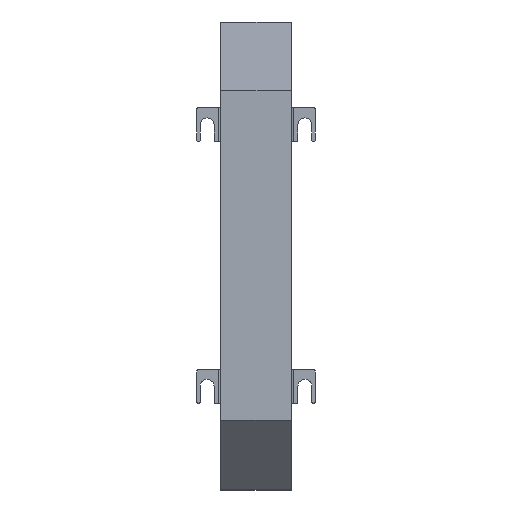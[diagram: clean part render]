
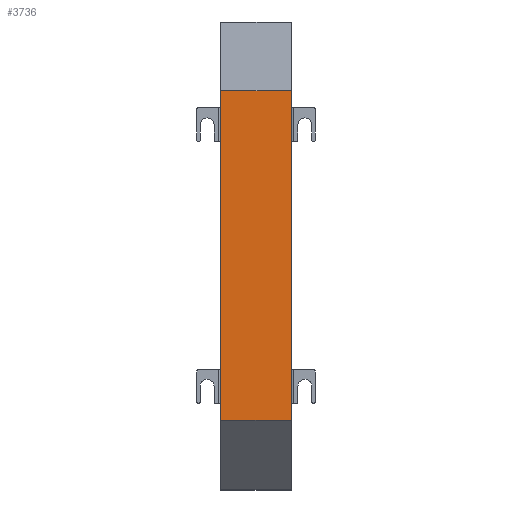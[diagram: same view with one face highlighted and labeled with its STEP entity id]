
A CAD part, top view. The second image highlights one B-rep face of the part: STEP entity #3736.
In plain terms, the highlighted planar face has unit normal (0, 0, 1) as drawn and (0, -1, 0) by its records, which use the part's own axes.
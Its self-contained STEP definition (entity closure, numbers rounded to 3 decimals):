
#226 = CARTESIAN_POINT ( 'NONE',  ( 0., 0., 16.5 ) ) ;
#300 = DIRECTION ( 'NONE',  ( 1., 0., 0. ) ) ;
#331 = LINE ( 'NONE', #14439, #4155 ) ;
#351 = CARTESIAN_POINT ( 'NONE',  ( 0., 0., -16.5 ) ) ;
#430 = VECTOR ( 'NONE', #300, 1000. ) ;
#510 = DIRECTION ( 'NONE',  ( 0., 0., -1. ) ) ;
#640 = CARTESIAN_POINT ( 'NONE',  ( 131., 0., 16.5 ) ) ;
#753 = CARTESIAN_POINT ( 'NONE',  ( 0., 0., -16.5 ) ) ;
#929 = EDGE_CURVE ( 'NONE', #12961, #6169, #7096, .T. ) ;
#1177 = DIRECTION ( 'NONE',  ( 1., 0., 0. ) ) ;
#1220 = ORIENTED_EDGE ( 'NONE', *, *, #10802, .F. ) ;
#1302 = EDGE_CURVE ( 'NONE', #13810, #6230, #3359, .T. ) ;
#1384 = DIRECTION ( 'NONE',  ( 1., 0., 0. ) ) ;
#1571 = LINE ( 'NONE', #10686, #10715 ) ;
#1742 = CARTESIAN_POINT ( 'NONE',  ( 24., 0., -16.5 ) ) ;
#1794 = DIRECTION ( 'NONE',  ( 1., 0., 0. ) ) ;
#2130 = ORIENTED_EDGE ( 'NONE', *, *, #12154, .F. ) ;
#2704 = CARTESIAN_POINT ( 'NONE',  ( 0., 0., 16.5 ) ) ;
#2832 = VERTEX_POINT ( 'NONE', #6366 ) ;
#2851 = CARTESIAN_POINT ( 'NONE',  ( 0., 0., 16.5 ) ) ;
#3083 = PLANE ( 'NONE',  #3784 ) ;
#3161 = CARTESIAN_POINT ( 'NONE',  ( 0., 0., -16.5 ) ) ;
#3162 = VECTOR ( 'NONE', #1384, 1000. ) ;
#3269 = VERTEX_POINT ( 'NONE', #640 ) ;
#3322 = EDGE_LOOP ( 'NONE', ( #11582, #4817, #13598, #7181, #9002, #11249, #14770, #1220, #7838, #14600, #2130, #6195 ) ) ;
#3359 = LINE ( 'NONE', #5715, #3418 ) ;
#3418 = VECTOR ( 'NONE', #13857, 1000. ) ;
#3465 = VECTOR ( 'NONE', #14175, 1000. ) ;
#3629 = CARTESIAN_POINT ( 'NONE',  ( 8., 0., -16.5 ) ) ;
#3736 = ADVANCED_FACE ( 'NONE', ( #13415 ), #3083, .F. ) ;
#3761 = VERTEX_POINT ( 'NONE', #5786 ) ;
#3784 = AXIS2_PLACEMENT_3D ( 'NONE', #14629, #7888, #12266 ) ;
#3901 = LINE ( 'NONE', #351, #12856 ) ;
#3908 = LINE ( 'NONE', #2851, #9969 ) ;
#3969 = LINE ( 'NONE', #14603, #6210 ) ;
#4155 = VECTOR ( 'NONE', #12077, 1000. ) ;
#4310 = LINE ( 'NONE', #753, #12866 ) ;
#4558 = CARTESIAN_POINT ( 'NONE',  ( 0., 0., 16.5 ) ) ;
#4817 = ORIENTED_EDGE ( 'NONE', *, *, #1302, .T. ) ;
#5031 = DIRECTION ( 'NONE',  ( 1., 0., 0. ) ) ;
#5715 = CARTESIAN_POINT ( 'NONE',  ( 0., 0., -16.5 ) ) ;
#5752 = CARTESIAN_POINT ( 'NONE',  ( 147., 0., 16.5 ) ) ;
#5786 = CARTESIAN_POINT ( 'NONE',  ( 131., 0., -16.5 ) ) ;
#6017 = VERTEX_POINT ( 'NONE', #226 ) ;
#6169 = VERTEX_POINT ( 'NONE', #13645 ) ;
#6195 = ORIENTED_EDGE ( 'NONE', *, *, #10799, .T. ) ;
#6210 = VECTOR ( 'NONE', #10140, 1000. ) ;
#6227 = EDGE_CURVE ( 'NONE', #9489, #13810, #4310, .T. ) ;
#6230 = VERTEX_POINT ( 'NONE', #1742 ) ;
#6366 = CARTESIAN_POINT ( 'NONE',  ( 155., 0., -16.5 ) ) ;
#6545 = DIRECTION ( 'NONE',  ( 1., 0., 0. ) ) ;
#6683 = VERTEX_POINT ( 'NONE', #7954 ) ;
#7096 = LINE ( 'NONE', #14215, #3162 ) ;
#7181 = ORIENTED_EDGE ( 'NONE', *, *, #9916, .T. ) ;
#7721 = EDGE_CURVE ( 'NONE', #6230, #3761, #3901, .T. ) ;
#7838 = ORIENTED_EDGE ( 'NONE', *, *, #10835, .F. ) ;
#7888 = DIRECTION ( 'NONE',  ( 0., 1., 0. ) ) ;
#7954 = CARTESIAN_POINT ( 'NONE',  ( 147., 0., -16.5 ) ) ;
#8116 = CARTESIAN_POINT ( 'NONE',  ( 0., 0., 16.5 ) ) ;
#8377 = VECTOR ( 'NONE', #1177, 1000. ) ;
#8517 = CARTESIAN_POINT ( 'NONE',  ( 8., 0., 16.5 ) ) ;
#9002 = ORIENTED_EDGE ( 'NONE', *, *, #12390, .T. ) ;
#9489 = VERTEX_POINT ( 'NONE', #3161 ) ;
#9562 = LINE ( 'NONE', #14087, #12518 ) ;
#9916 = EDGE_CURVE ( 'NONE', #3761, #6683, #9562, .T. ) ;
#9969 = VECTOR ( 'NONE', #510, 1000. ) ;
#10140 = DIRECTION ( 'NONE',  ( 1., 0., 0. ) ) ;
#10377 = CARTESIAN_POINT ( 'NONE',  ( 155., 0., 16.5 ) ) ;
#10586 = LINE ( 'NONE', #8116, #8377 ) ;
#10625 = LINE ( 'NONE', #4558, #430 ) ;
#10686 = CARTESIAN_POINT ( 'NONE',  ( 0., 0., 16.5 ) ) ;
#10715 = VECTOR ( 'NONE', #1794, 1000. ) ;
#10799 = EDGE_CURVE ( 'NONE', #6017, #9489, #3908, .T. ) ;
#10802 = EDGE_CURVE ( 'NONE', #3269, #14847, #13248, .T. ) ;
#10835 = EDGE_CURVE ( 'NONE', #6169, #3269, #1571, .T. ) ;
#11249 = ORIENTED_EDGE ( 'NONE', *, *, #14624, .F. ) ;
#11488 = EDGE_CURVE ( 'NONE', #14847, #12196, #10625, .T. ) ;
#11582 = ORIENTED_EDGE ( 'NONE', *, *, #6227, .T. ) ;
#12077 = DIRECTION ( 'NONE',  ( 0., 0., -1. ) ) ;
#12154 = EDGE_CURVE ( 'NONE', #6017, #12961, #10586, .T. ) ;
#12196 = VERTEX_POINT ( 'NONE', #10377 ) ;
#12266 = DIRECTION ( 'NONE',  ( 0., 0., 1. ) ) ;
#12390 = EDGE_CURVE ( 'NONE', #6683, #2832, #3969, .T. ) ;
#12518 = VECTOR ( 'NONE', #5031, 1000. ) ;
#12855 = DIRECTION ( 'NONE',  ( 1., 0., 0. ) ) ;
#12856 = VECTOR ( 'NONE', #12855, 1000. ) ;
#12866 = VECTOR ( 'NONE', #6545, 1000. ) ;
#12961 = VERTEX_POINT ( 'NONE', #8517 ) ;
#13248 = LINE ( 'NONE', #2704, #3465 ) ;
#13415 = FACE_OUTER_BOUND ( 'NONE', #3322, .T. ) ;
#13598 = ORIENTED_EDGE ( 'NONE', *, *, #7721, .T. ) ;
#13645 = CARTESIAN_POINT ( 'NONE',  ( 24., 0., 16.5 ) ) ;
#13810 = VERTEX_POINT ( 'NONE', #3629 ) ;
#13857 = DIRECTION ( 'NONE',  ( 1., 0., 0. ) ) ;
#14087 = CARTESIAN_POINT ( 'NONE',  ( 0., 0., -16.5 ) ) ;
#14175 = DIRECTION ( 'NONE',  ( 1., 0., 0. ) ) ;
#14215 = CARTESIAN_POINT ( 'NONE',  ( 0., 0., 16.5 ) ) ;
#14439 = CARTESIAN_POINT ( 'NONE',  ( 155., 0., 16.5 ) ) ;
#14600 = ORIENTED_EDGE ( 'NONE', *, *, #929, .F. ) ;
#14603 = CARTESIAN_POINT ( 'NONE',  ( 0., 0., -16.5 ) ) ;
#14624 = EDGE_CURVE ( 'NONE', #12196, #2832, #331, .T. ) ;
#14629 = CARTESIAN_POINT ( 'NONE',  ( 0., 0., 16.5 ) ) ;
#14770 = ORIENTED_EDGE ( 'NONE', *, *, #11488, .F. ) ;
#14847 = VERTEX_POINT ( 'NONE', #5752 ) ;
